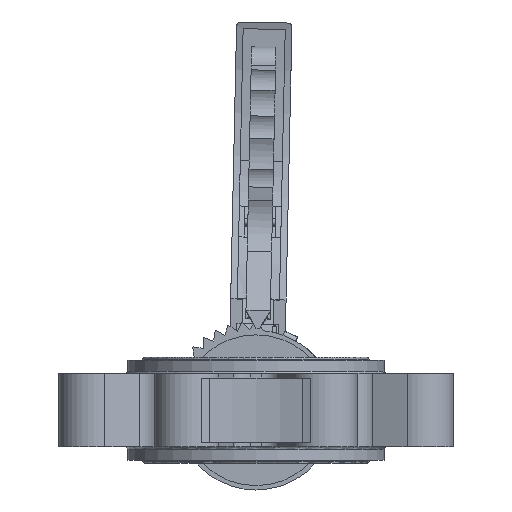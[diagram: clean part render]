
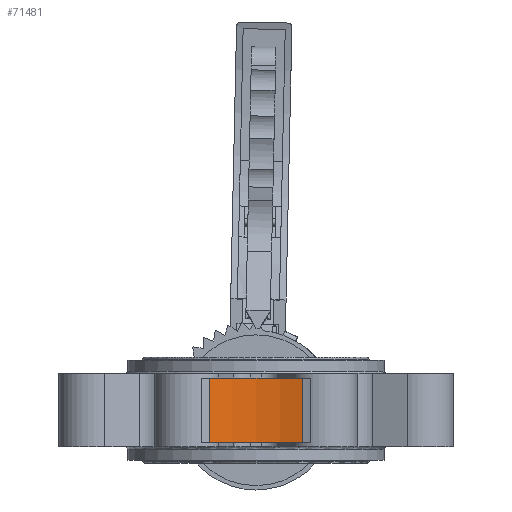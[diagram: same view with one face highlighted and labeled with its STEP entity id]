
A CAD part, front view. The second image highlights one B-rep face of the part: STEP entity #71481.
In plain terms, the highlighted cylindrical face has radius 68.469 mm (diameter 136.938 mm), a partial arc.
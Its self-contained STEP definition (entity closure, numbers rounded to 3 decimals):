
#2644 = VERTEX_POINT ( 'NONE', #51505 ) ;
#4375 = AXIS2_PLACEMENT_3D ( 'NONE', #27509, #28609, #56499 ) ;
#5198 = LINE ( 'NONE', #22492, #59724 ) ;
#7761 = DIRECTION ( 'NONE',  ( 1., 0., 0. ) ) ;
#12402 = EDGE_CURVE ( 'NONE', #39280, #33001, #65839, .T. ) ;
#14193 = DIRECTION ( 'NONE',  ( 0., 0., 1. ) ) ;
#19703 = VECTOR ( 'NONE', #14193, 1000. ) ;
#19879 = CARTESIAN_POINT ( 'NONE',  ( 21.164, -86.353, -14.5 ) ) ;
#22492 = CARTESIAN_POINT ( 'NONE',  ( -21.164, -86.353, 111.496 ) ) ;
#22862 = DIRECTION ( 'NONE',  ( 0., 0., -1. ) ) ;
#27509 = CARTESIAN_POINT ( 'NONE',  ( 0., -151.469, 14.5 ) ) ;
#28609 = DIRECTION ( 'NONE',  ( 0., 0., -1. ) ) ;
#29002 = AXIS2_PLACEMENT_3D ( 'NONE', #41715, #59409, #7761 ) ;
#30204 = EDGE_LOOP ( 'NONE', ( #60329, #45671, #54368, #30361 ) ) ;
#30361 = ORIENTED_EDGE ( 'NONE', *, *, #36264, .F. ) ;
#30832 = CARTESIAN_POINT ( 'NONE',  ( -21.164, -86.353, 14.5 ) ) ;
#32922 = FACE_OUTER_BOUND ( 'NONE', #30204, .T. ) ;
#33001 = VERTEX_POINT ( 'NONE', #45730 ) ;
#36264 = EDGE_CURVE ( 'NONE', #48927, #33001, #66939, .T. ) ;
#37511 = EDGE_CURVE ( 'NONE', #48927, #2644, #5198, .T. ) ;
#39280 = VERTEX_POINT ( 'NONE', #19879 ) ;
#39913 = CIRCLE ( 'NONE', #29002, 68.469 ) ;
#41715 = CARTESIAN_POINT ( 'NONE',  ( 0., -151.469, -14.5 ) ) ;
#45375 = CYLINDRICAL_SURFACE ( 'NONE', #63160, 68.469 ) ;
#45671 = ORIENTED_EDGE ( 'NONE', *, *, #50129, .T. ) ;
#45730 = CARTESIAN_POINT ( 'NONE',  ( 21.164, -86.353, 14.5 ) ) ;
#45748 = DIRECTION ( 'NONE',  ( 0., 0., 1. ) ) ;
#48927 = VERTEX_POINT ( 'NONE', #30832 ) ;
#50129 = EDGE_CURVE ( 'NONE', #2644, #39280, #39913, .T. ) ;
#51505 = CARTESIAN_POINT ( 'NONE',  ( -21.164, -86.353, -14.5 ) ) ;
#53458 = CARTESIAN_POINT ( 'NONE',  ( 21.164, -86.353, -111.496 ) ) ;
#54368 = ORIENTED_EDGE ( 'NONE', *, *, #12402, .T. ) ;
#56499 = DIRECTION ( 'NONE',  ( 1., 0., 0. ) ) ;
#56630 = DIRECTION ( 'NONE',  ( 1., 0., 0. ) ) ;
#59409 = DIRECTION ( 'NONE',  ( 0., 0., -1. ) ) ;
#59724 = VECTOR ( 'NONE', #22862, 1000. ) ;
#60329 = ORIENTED_EDGE ( 'NONE', *, *, #37511, .T. ) ;
#63160 = AXIS2_PLACEMENT_3D ( 'NONE', #74389, #45748, #56630 ) ;
#65839 = LINE ( 'NONE', #53458, #19703 ) ;
#66939 = CIRCLE ( 'NONE', #4375, 68.469 ) ;
#71481 = ADVANCED_FACE ( 'NONE', ( #32922 ), #45375, .F. ) ;
#74389 = CARTESIAN_POINT ( 'NONE',  ( 0., -151.469, -14.5 ) ) ;
